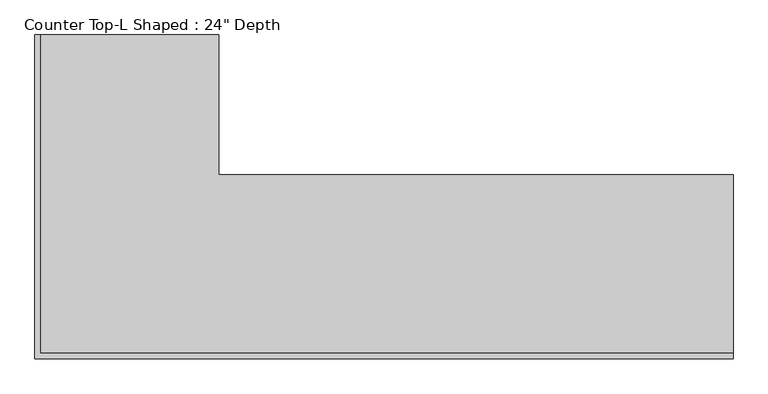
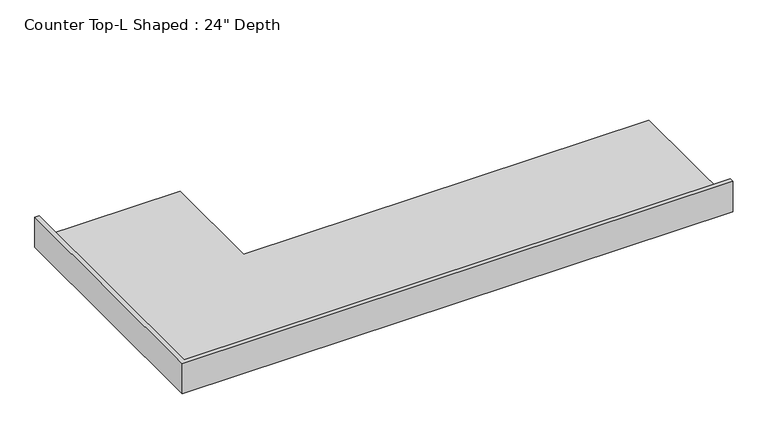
"""IFC4 building model written with IfcOpenShell, lengths in millimetres: furniture geometry."""

from ifc_helpers import new_model, si_unit, origin, place, context, project, spatial, faceted_brep, source, transform, mapped, element, save


def furniture_f819cad0(model_context):
    return source(origin(), model_context, "Body", "Brep", [
        faceted_brep([(-565.4622951, 1117.6, 914.4), (-1181.4122951, 1117.6, 914.4), (-1181.4122951, 19.05, 914.4), (1209.3627049, 19.05, 914.4), (1209.3627049, 635.0, 914.4), (-565.4622951, 635.0, 914.4), (1209.3627049, 0.0, 876.3), (-1200.4622951, 0.0, 876.3), (-1200.4622951, 1117.6, 876.3), (-565.4622951, 1117.6, 876.3), (-565.4622951, 635.0, 876.3), (1209.3627049, 635.0, 876.3), (1209.3627049, 0.0, 1016.0), (-1200.4622951, 0.0, 1016.0), (-1200.4622951, 1117.6, 1016.0), (-1181.4122951, 1117.6, 1016.0), (1209.3627049, 19.05, 1016.0), (-1181.4122951, 19.05, 1016.0)], [[[0, 1, 2, 3, 4, 5]], [[6, 7, 8, 9, 10, 11]], [[6, 12, 13, 7]], [[7, 13, 14, 8]], [[14, 15, 1, 0, 9, 8]], [[5, 10, 9, 0]], [[4, 11, 10, 5]], [[11, 4, 3, 16, 12, 6]], [[13, 12, 16, 17, 15, 14]], [[3, 2, 17, 16]], [[17, 2, 1, 15]]]),
    ])


if __name__ == "__main__":
    model = new_model("IFC4")
    model_context = context("Model", 3, world=origin())
    ifc_project = project(units=[si_unit("LENGTHUNIT", "METRE", prefix="MILLI")], contexts=[model_context])
    site = spatial("IfcSite", under=ifc_project)
    building = spatial("IfcBuilding", under=site)
    placement = place(None, origin())
    furniture_shape = furniture_f819cad0(model_context)
    element("IfcFurniture", 1, ObjectType="Counter Top-L Shaped : 24\" Depth", at=placement, inside=building, context=model_context, shape_type="MappedRepresentation", body=[
        mapped(furniture_shape, transform((0.0, 0.0, 0.0), x_axis=(1.0, 0.0, 0.0), y_axis=(0.0, 1.0, 0.0), z_axis=(0.0, 0.0, 1.0))),
    ])
    save(model, "model.ifc")
